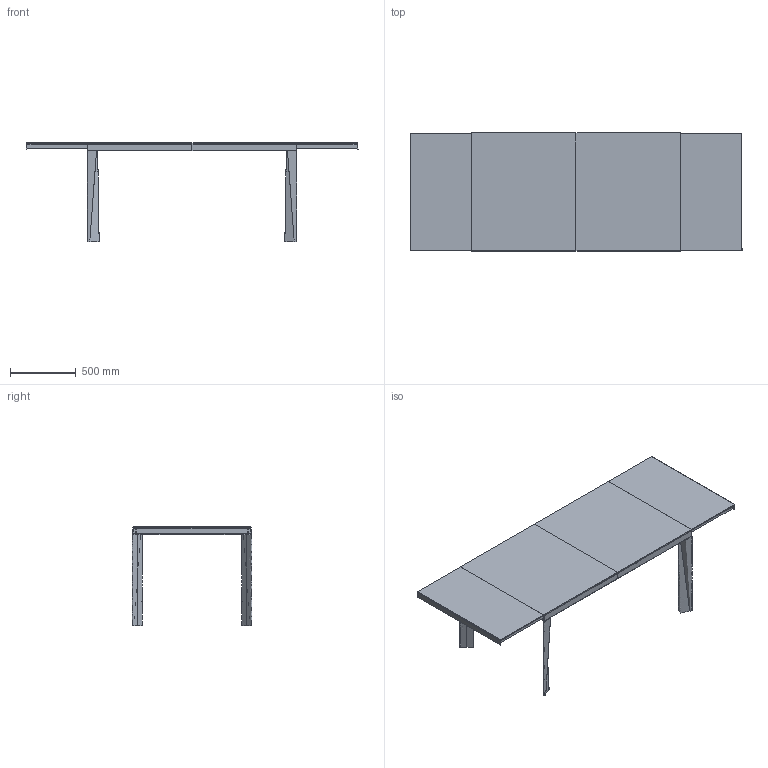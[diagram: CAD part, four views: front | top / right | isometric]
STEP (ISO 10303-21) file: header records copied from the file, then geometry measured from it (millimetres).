
FILE_DESCRIPTION(/* description */ (''),/* implementation_level */ '2;1');
FILE_NAME(/* name */ '10180 - Iceberg 160+48+48x90',/* time_stamp */ '2010-11-03T14:51:34+01:00',/* author */ (''),/* organization */ (''),/* preprocessor_version */ 'ST-DEVELOPER v10',/* originating_system */ '',/* authorisation */ '');
FILE_SCHEMA (('CONFIG_CONTROL_DESIGN'));
Length unit declared in the file: centimetre
Products named in the file (1): 1
Bounding box: 2522 x 906 x 752.51 mm (x, y, z)
Volume: 29541325.4 mm3; surface area: 7092043.8 mm2
Topology: 13 solids, 13 shells, 194 faces, 460 edges, 288 vertices
Faces by surface type: plane 174, bspline 20
Entity records: 6076 total; most frequent: CARTESIAN_POINT 2752, ORIENTED_EDGE 920, EDGE_CURVE 460, B_SPLINE_CURVE_WITH_KNOTS 428, VERTEX_POINT 288, ADVANCED_FACE 194, FACE_OUTER_BOUND 194, EDGE_LOOP 194
